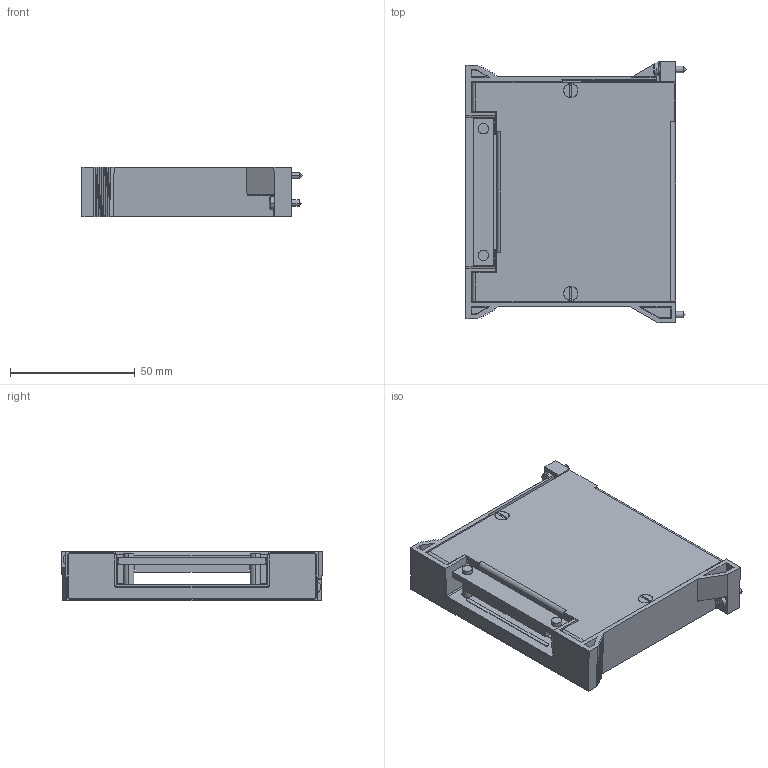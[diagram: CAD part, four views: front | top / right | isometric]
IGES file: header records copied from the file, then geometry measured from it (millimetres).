
Start section:  PTC IGES file: cu_pxi_tb_pl_inv.igs
Global section: file name: cu_pxi_tb_pl_inv.igs; native system: Pro/ENGINEER by Parametric Technology Corporation; preprocessor: 2006300; author: chrisj; organization: Unknown; date: 20070912.170153; units: inch
Bounding box: 88.3 x 104.78 x 20.02 mm (x, y, z)
Surface area: 47870.9 mm2 (no closed solid volume)
Topology: 0 solids, 0 shells, 738 faces, 3696 edges, 3632 vertices
Faces by surface type: bspline 509, revolution 229
